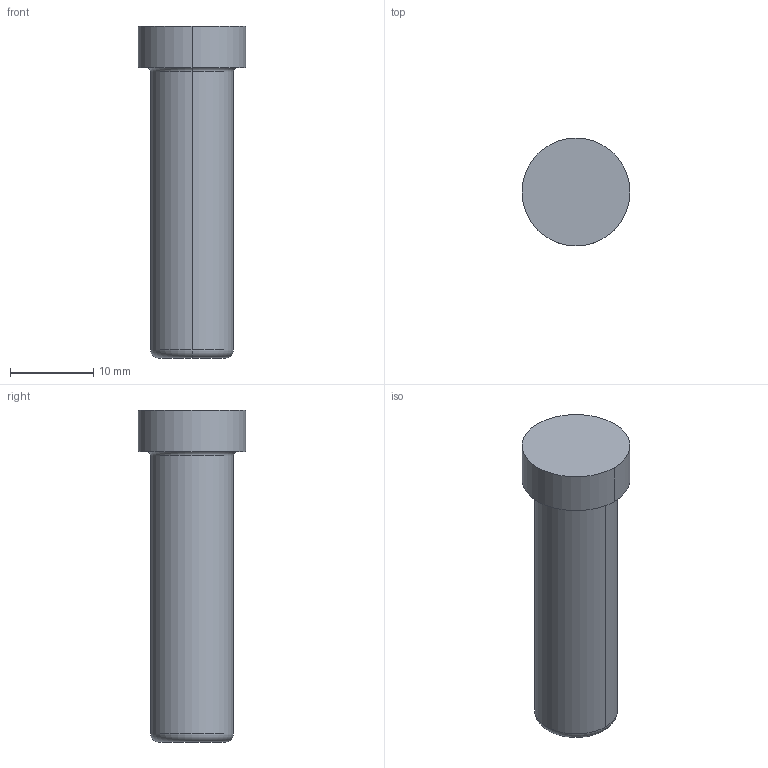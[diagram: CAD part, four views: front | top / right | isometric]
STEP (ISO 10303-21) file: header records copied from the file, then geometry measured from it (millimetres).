
FILE_DESCRIPTION(/* description */ (''),/* implementation_level */ '2;1');
FILE_NAME(/* name */ '3d_sgph10-40_00267_r00.stp',/* time_stamp */ '2011-01-10T14:11:07+09:00',/* author */ ('MISUMI'),/* organization */ (''),/* preprocessor_version */ 'ST-DEVELOPER v11',/* originating_system */ 'UGS - NX 5.0',/* authorisation */ '');
FILE_SCHEMA (('CONFIG_CONTROL_DESIGN'));
Length unit declared in the file: millimetre
Products named in the file (1): 3d_sgph10-40_00267_r00
Bounding box: 13 x 13 x 40 mm (x, y, z)
Volume: 3407.8 mm3; surface area: 1548.7 mm2
Topology: 1 solids, 1 shells, 11 faces, 20 edges, 12 vertices
Faces by surface type: cylinder 4, torus 4, plane 3
Entity records: 364 total; most frequent: DIRECTION 60, CARTESIAN_POINT 44, ORIENTED_EDGE 40, AXIS2_PLACEMENT_3D 28, EDGE_CURVE 20, CIRCLE 16, EDGE_LOOP 12, VERTEX_POINT 12
